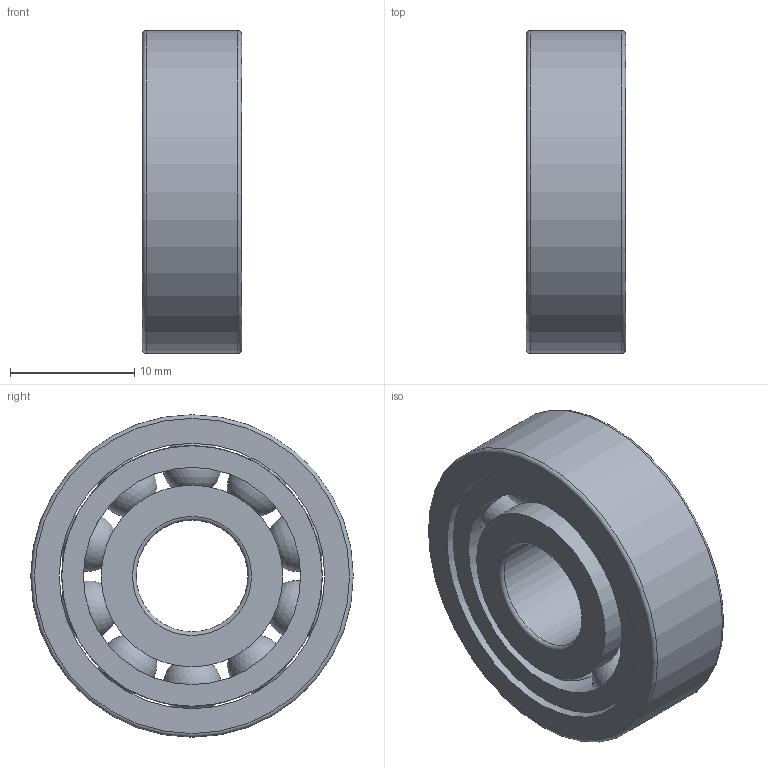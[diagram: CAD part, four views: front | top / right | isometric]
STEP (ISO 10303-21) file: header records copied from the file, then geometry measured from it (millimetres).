
FILE_DESCRIPTION(/* description */ (''),/* implementation_level */ '2;1');
FILE_NAME(/* name */ 'S_629_TA.step',/* time_stamp */ '2013-03-06T14:49:00+01:00',/* author */ ('Marian'),/* organization */ ('GMN'),/* preprocessor_version */ 'ST-DEVELOPER v11',/* originating_system */ 'SIEMENS UGS NX 6.0',/* authorisation */ '');
FILE_SCHEMA (('CONFIG_CONTROL_DESIGN'));
Length unit declared in the file: millimetre
Products named in the file (1): S_629_TA
Bounding box: 8 x 26 x 26 mm (x, y, z)
Volume: 2877.4 mm3; surface area: 3956.7 mm2
Topology: 13 solids, 13 shells, 40 faces, 98 edges, 62 vertices
Faces by surface type: cylinder 17, sphere 10, torus 6, plane 6, cone 1
Full cylindrical faces by diameter (mm): 4.962 x10, 9 x1, 14.65 x2, 17.512 x1, 21 x1, 21.4 x1, 26 x1
Entity records: 2038 total; most frequent: CARTESIAN_POINT 1271, DIRECTION 122, FACE_BOUND 90, EDGE_LOOP 80, ORIENTED_EDGE 80, AXIS2_PLACEMENT_3D 61, VERTEX_POINT 50, EDGE_CURVE 40
